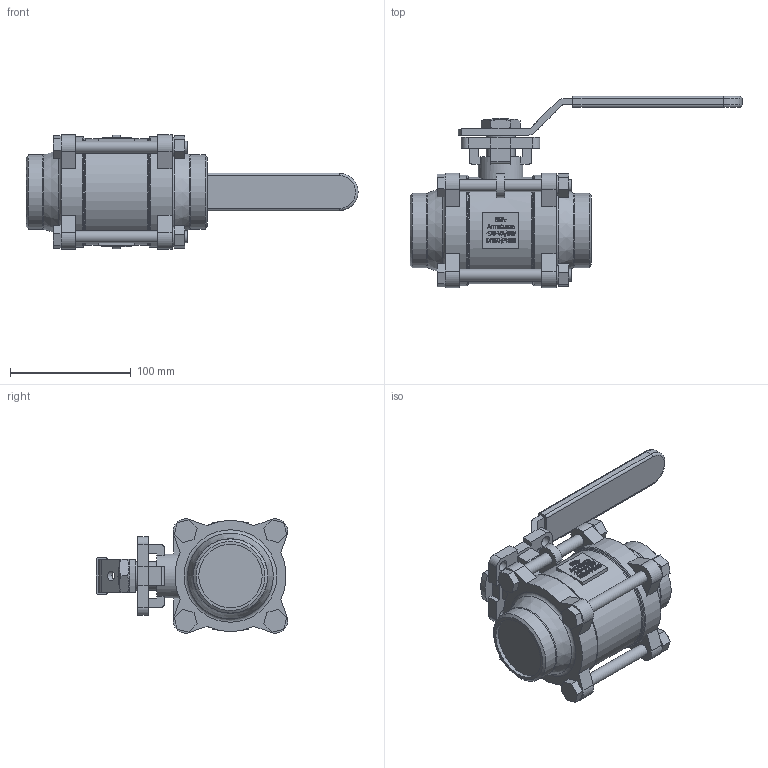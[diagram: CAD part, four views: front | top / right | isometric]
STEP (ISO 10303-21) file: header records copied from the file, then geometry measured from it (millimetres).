
FILE_DESCRIPTION((''),'2;1');
FILE_NAME('K:\Inventor\1 Artikel\11) Muffen-Kugelhähne\11a) manuell\Econosto\470-VABW, 7644ISO\470-VABW, DN50\470-VABW, DN50, 3D\470-VABW, DN50, PN68, HH, 3D.stp','2019-10-24T13:55:01',('claudia'),(''),'Autodesk Inventor 2013','Autodesk Inventor 2013','');
FILE_SCHEMA(('AUTOMOTIVE_DESIGN { 1 0 10303 214 1 1 1 1 }'));
Length unit declared in the file: millimetre
Products named in the file (1): Bauteil2
Bounding box: 275 x 158.47 x 94.75 mm (x, y, z)
Volume: 948063.9 mm3; surface area: 106946.5 mm2
Topology: 1 solids, 1 shells, 1443 faces, 3885 edges, 2579 vertices
Faces by surface type: plane 854, bspline 495, cylinder 66, cone 18, torus 10
Full cylindrical faces by diameter (mm): 7 x4, 8 x2, 9 x4, 10 x8, 10.5 x2, 16 x4, 24 x1, 37 x1, 40 x1, 52.5 x2, 61.5 x2, 88 x1, 92 x2
Entity records: 48658 total; most frequent: CARTESIAN_POINT 15873, ORIENTED_EDGE 7652, DIRECTION 4907, EDGE_CURVE 3826, VECTOR 2611, LINE 2611, VERTEX_POINT 2569, EDGE_LOOP 1667
